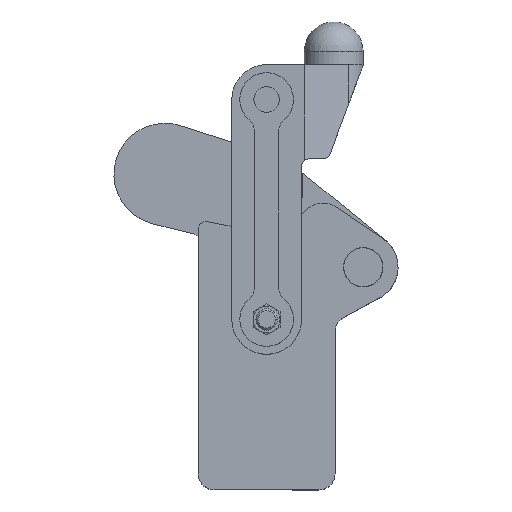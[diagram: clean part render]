
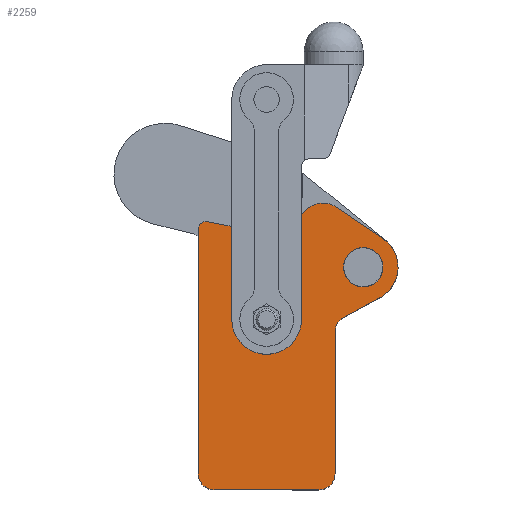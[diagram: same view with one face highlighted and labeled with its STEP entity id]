
A CAD part, top view. The second image highlights one B-rep face of the part: STEP entity #2259.
In plain terms, the highlighted planar face has unit normal (0, 0, 1).
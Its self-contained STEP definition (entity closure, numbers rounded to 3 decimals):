
#1095 = EDGE_CURVE( '', #1249, #1301, #2989, .T. );
#1137 = EDGE_CURVE( '', #1301, #1607, #3037, .T. );
#1249 = VERTEX_POINT( '', #3163 );
#1275 = EDGE_CURVE( '', #2039, #2487, #3190, .T. );
#1301 = VERTEX_POINT( '', #3218 );
#1305 = EDGE_CURVE( '', #2437, #2587, #3222, .T. );
#1313 = EDGE_CURVE( '', #2207, #2115, #3230, .T. );
#1399 = EDGE_CURVE( '', #2159, #2437, #3326, .T. );
#1417 = VERTEX_POINT( '', #3347 );
#1607 = VERTEX_POINT( '', #3563 );
#1703 = EDGE_CURVE( '', #2115, #2753, #3674, .T. );
#1805 = EDGE_CURVE( '', #2023, #2243, #3794, .T. );
#1851 = EDGE_CURVE( '', #1607, #2171, #3844, .T. );
#1929 = EDGE_CURVE( '', #2487, #2039, #3931, .T. );
#2023 = VERTEX_POINT( '', #4034 );
#2039 = VERTEX_POINT( '', #4052 );
#2115 = VERTEX_POINT( '', #4133 );
#2127 = EDGE_CURVE( '', #2171, #2529, #4147, .T. );
#2129 = EDGE_CURVE( '', #2753, #2159, #4149, .T. );
#2159 = VERTEX_POINT( '', #4184 );
#2171 = VERTEX_POINT( '', #4198 );
#2181 = EDGE_CURVE( '', #2243, #1249, #4208, .T. );
#2207 = VERTEX_POINT( '', #4236 );
#2243 = VERTEX_POINT( '', #4272 );
#2259 = ADVANCED_FACE( '', ( #4288, #4289 ), #4290, .T. );
#2341 = EDGE_CURVE( '', #1417, #2023, #4381, .T. );
#2345 = EDGE_CURVE( '', #2529, #2207, #4385, .T. );
#2437 = VERTEX_POINT( '', #4490 );
#2487 = VERTEX_POINT( '', #4544 );
#2529 = VERTEX_POINT( '', #4589 );
#2587 = VERTEX_POINT( '', #4653 );
#2753 = VERTEX_POINT( '', #4836 );
#2829 = EDGE_CURVE( '', #2587, #1417, #4922, .T. );
#2989 = CIRCLE( '', #5152, 13. );
#3037 = LINE( '', #5214, #5215 );
#3163 = CARTESIAN_POINT( '', ( 68.751, 93.79, 12. ) );
#3190 = CIRCLE( '', #5429, 7.365 );
#3218 = CARTESIAN_POINT( '', ( 67.703, 71.575, 12. ) );
#3222 = LINE( '', #5479, #5480 );
#3230 = LINE( '', #5492, #5493 );
#3326 = CIRCLE( '', #5631, 3. );
#3347 = CARTESIAN_POINT( '', ( 35.331, 99.842, 12. ) );
#3563 = CARTESIAN_POINT( '', ( 54.137, 64.21, 12. ) );
#3674 = CIRCLE( '', #6099, 6. );
#3794 = CIRCLE( '', #6247, 9. );
#3844 = CIRCLE( '', #6331, 6. );
#3931 = CIRCLE( '', #6456, 7.365 );
#4034 = CARTESIAN_POINT( '', ( 40.398, 104.515, 12. ) );
#4052 = CARTESIAN_POINT( '', ( 54.135, 83., 12. ) );
#4133 = CARTESIAN_POINT( '', ( 6., 0., 12. ) );
#4147 = LINE( '', #6756, #6757 );
#4149 = LINE( '', #6760, #6761 );
#4184 = CARTESIAN_POINT( '', ( 0., 96.987, 12. ) );
#4198 = CARTESIAN_POINT( '', ( 51., 58.937, 12. ) );
#4208 = LINE( '', #6833, #6834 );
#4236 = CARTESIAN_POINT( '', ( 45., 0., 12. ) );
#4272 = CARTESIAN_POINT( '', ( 51.52, 105.37, 12. ) );
#4288 = FACE_OUTER_BOUND( '', #6955, .T. );
#4289 = FACE_BOUND( '', #6956, .T. );
#4290 = PLANE( '', #6957 );
#4381 = LINE( '', #7097, #7098 );
#4385 = CIRCLE( '', #7103, 6. );
#4490 = CARTESIAN_POINT( '', ( 3.564, 99.934, 12. ) );
#4544 = CARTESIAN_POINT( '', ( 68.865, 83., 12. ) );
#4589 = CARTESIAN_POINT( '', ( 51., 6., 12. ) );
#4653 = CARTESIAN_POINT( '', ( 22.775, 96.258, 12. ) );
#4836 = CARTESIAN_POINT( '', ( 0., 6., 12. ) );
#4922 = CIRCLE( '', #7881, 14.5 );
#5152 = AXIS2_PLACEMENT_3D( '', #8062, #8063, #8064 );
#5214 = CARTESIAN_POINT( '', ( 54.137, 64.21, 12. ) );
#5215 = VECTOR( '', #8136, 1. );
#5429 = AXIS2_PLACEMENT_3D( '', #8280, #8281, #8282 );
#5479 = CARTESIAN_POINT( '', ( 22.775, 96.258, 12. ) );
#5480 = VECTOR( '', #8312, 1. );
#5492 = CARTESIAN_POINT( '', ( 6., 0., 12. ) );
#5493 = VECTOR( '', #8317, 1. );
#5631 = AXIS2_PLACEMENT_3D( '', #8440, #8441, #8442 );
#6099 = AXIS2_PLACEMENT_3D( '', #8893, #8894, #8895 );
#6247 = AXIS2_PLACEMENT_3D( '', #9070, #9071, #9072 );
#6331 = AXIS2_PLACEMENT_3D( '', #9126, #9127, #9128 );
#6456 = AXIS2_PLACEMENT_3D( '', #9219, #9220, #9221 );
#6756 = CARTESIAN_POINT( '', ( 51., 6., 12. ) );
#6757 = VECTOR( '', #9449, 1. );
#6760 = CARTESIAN_POINT( '', ( 0., 96.987, 12. ) );
#6761 = VECTOR( '', #9450, 1. );
#6833 = CARTESIAN_POINT( '', ( 68.751, 93.79, 12. ) );
#6834 = VECTOR( '', #9522, 1. );
#6955 = EDGE_LOOP( '', ( #9578, #9579, #9580, #9581, #9582, #9583, #9584, #9585, #9586, #9587, #9588, #9589, #9590, #9591 ) );
#6956 = EDGE_LOOP( '', ( #9592, #9593 ) );
#6957 = AXIS2_PLACEMENT_3D( '', #9594, #9595, #9596 );
#7097 = CARTESIAN_POINT( '', ( 40.398, 104.515, 12. ) );
#7098 = VECTOR( '', #9711, 1. );
#7103 = AXIS2_PLACEMENT_3D( '', #9712, #9713, #9714 );
#7881 = AXIS2_PLACEMENT_3D( '', #10361, #10362, #10363 );
#8062 = CARTESIAN_POINT( '', ( 61.5, 83., 12. ) );
#8063 = DIRECTION( '', ( 0., 0., -1. ) );
#8064 = DIRECTION( '', ( 0.477, -0.879, 0. ) );
#8136 = DIRECTION( '', ( -0.879, -0.477, 0. ) );
#8280 = CARTESIAN_POINT( '', ( 61.5, 83., 12. ) );
#8281 = DIRECTION( '', ( 0., 0., -1. ) );
#8282 = DIRECTION( '', ( 1., 0., 0. ) );
#8312 = DIRECTION( '', ( 0.982, -0.188, 0. ) );
#8317 = DIRECTION( '', ( -1., 0., 0. ) );
#8440 = CARTESIAN_POINT( '', ( 3., 96.987, 12. ) );
#8441 = DIRECTION( '', ( 0., 0., -1. ) );
#8442 = DIRECTION( '', ( 0.188, 0.982, 0. ) );
#8893 = CARTESIAN_POINT( '', ( 6., 6., 12. ) );
#8894 = DIRECTION( '', ( 0., 0., -1. ) );
#8895 = DIRECTION( '', ( -1., 0., 0. ) );
#9070 = CARTESIAN_POINT( '', ( 46.5, 97.9, 12. ) );
#9071 = DIRECTION( '', ( 0., 0., -1. ) );
#9072 = DIRECTION( '', ( 0.558, 0.83, 0. ) );
#9126 = CARTESIAN_POINT( '', ( 57., 58.937, 12. ) );
#9127 = DIRECTION( '', ( 0., 0., 1. ) );
#9128 = DIRECTION( '', ( -1., 0., 0. ) );
#9219 = CARTESIAN_POINT( '', ( 61.5, 83., 12. ) );
#9220 = DIRECTION( '', ( 0., 0., -1. ) );
#9221 = DIRECTION( '', ( 1., 0., 0. ) );
#9449 = DIRECTION( '', ( 0., -1., 0. ) );
#9450 = DIRECTION( '', ( 0., 1., 0. ) );
#9522 = DIRECTION( '', ( 0.83, -0.558, 0. ) );
#9578 = ORIENTED_EDGE( '', *, *, #2129, .F. );
#9579 = ORIENTED_EDGE( '', *, *, #1703, .F. );
#9580 = ORIENTED_EDGE( '', *, *, #1313, .F. );
#9581 = ORIENTED_EDGE( '', *, *, #2345, .F. );
#9582 = ORIENTED_EDGE( '', *, *, #2127, .F. );
#9583 = ORIENTED_EDGE( '', *, *, #1851, .F. );
#9584 = ORIENTED_EDGE( '', *, *, #1137, .F. );
#9585 = ORIENTED_EDGE( '', *, *, #1095, .F. );
#9586 = ORIENTED_EDGE( '', *, *, #2181, .F. );
#9587 = ORIENTED_EDGE( '', *, *, #1805, .F. );
#9588 = ORIENTED_EDGE( '', *, *, #2341, .F. );
#9589 = ORIENTED_EDGE( '', *, *, #2829, .F. );
#9590 = ORIENTED_EDGE( '', *, *, #1305, .F. );
#9591 = ORIENTED_EDGE( '', *, *, #1399, .F. );
#9592 = ORIENTED_EDGE( '', *, *, #1275, .T. );
#9593 = ORIENTED_EDGE( '', *, *, #1929, .T. );
#9594 = CARTESIAN_POINT( '', ( 0., 0., 12. ) );
#9595 = DIRECTION( '', ( 0., 0., 1. ) );
#9596 = DIRECTION( '', ( 1., 0., 0. ) );
#9711 = DIRECTION( '', ( 0.735, 0.678, 0. ) );
#9712 = CARTESIAN_POINT( '', ( 45., 6., 12. ) );
#9713 = DIRECTION( '', ( 0., 0., -1. ) );
#9714 = DIRECTION( '', ( 0., -1., 0. ) );
#10361 = CARTESIAN_POINT( '', ( 25.5, 110.5, 12. ) );
#10362 = DIRECTION( '', ( 0., 0., 1. ) );
#10363 = DIRECTION( '', ( 0.678, -0.735, 0. ) );
